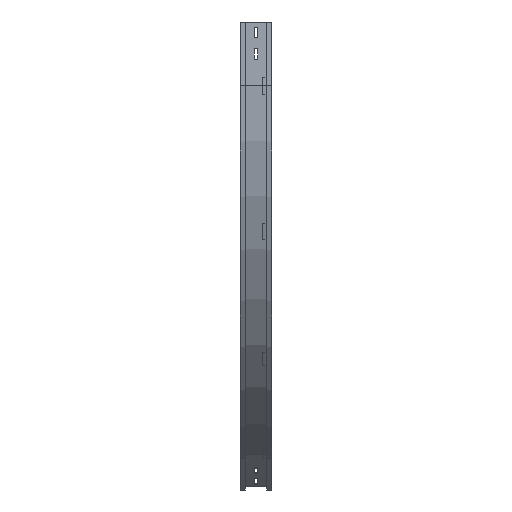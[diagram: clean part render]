
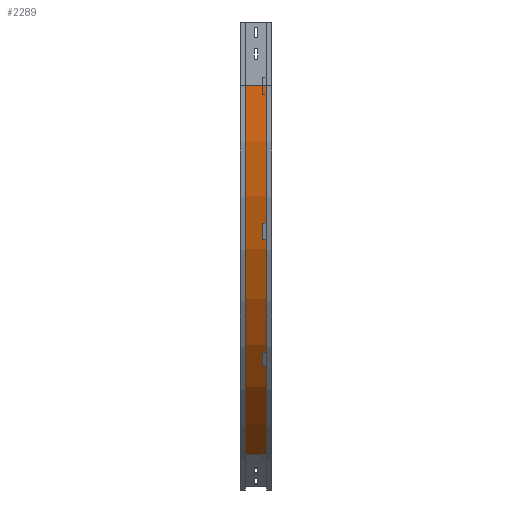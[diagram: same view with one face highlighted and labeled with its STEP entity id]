
A CAD part, left-side view. The second image highlights one B-rep face of the part: STEP entity #2289.
In plain terms, the highlighted cylindrical face has radius 1000 mm (diameter 2000 mm), a partial arc.
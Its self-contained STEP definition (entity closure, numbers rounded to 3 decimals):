
#7 = DIRECTION ( 'NONE',  ( 0., -1., 0. ) ) ;
#40 = VERTEX_POINT ( 'NONE', #1416 ) ;
#66 = CARTESIAN_POINT ( 'NONE',  ( 1009., 12., -150. ) ) ;
#71 = DIRECTION ( 'NONE',  ( 0., -1., 0. ) ) ;
#256 = CIRCLE ( 'NONE', #3017, 1000. ) ;
#290 = AXIS2_PLACEMENT_3D ( 'NONE', #2432, #71, #2468 ) ;
#332 = CYLINDRICAL_SURFACE ( 'NONE', #290, 1000. ) ;
#668 = EDGE_LOOP ( 'NONE', ( #2702, #2552, #2340, #2620 ) ) ;
#795 = CARTESIAN_POINT ( 'NONE',  ( 509., 12., -1016.025 ) ) ;
#1096 = DIRECTION ( 'NONE',  ( -1., 0., 0. ) ) ;
#1138 = VERTEX_POINT ( 'NONE', #2463 ) ;
#1250 = VERTEX_POINT ( 'NONE', #2402 ) ;
#1258 = LINE ( 'NONE', #1604, #2173 ) ;
#1296 = CARTESIAN_POINT ( 'NONE',  ( 1009., 63., -150. ) ) ;
#1299 = EDGE_CURVE ( 'NONE', #1250, #2439, #1687, .T. ) ;
#1366 = VECTOR ( 'NONE', #2505, 1000. ) ;
#1416 = CARTESIAN_POINT ( 'NONE',  ( 9., 12., -150. ) ) ;
#1604 = CARTESIAN_POINT ( 'NONE',  ( 9., 12., -150. ) ) ;
#1620 = LINE ( 'NONE', #795, #1366 ) ;
#1687 = CIRCLE ( 'NONE', #2015, 1000. ) ;
#1723 = DIRECTION ( 'NONE',  ( 0., -1., 0. ) ) ;
#1727 = FACE_OUTER_BOUND ( 'NONE', #668, .T. ) ;
#1915 = DIRECTION ( 'NONE',  ( -1., 0., 0. ) ) ;
#2015 = AXIS2_PLACEMENT_3D ( 'NONE', #1296, #7, #1096 ) ;
#2088 = EDGE_CURVE ( 'NONE', #1250, #40, #1258, .T. ) ;
#2096 = DIRECTION ( 'NONE',  ( 0., -1., 0. ) ) ;
#2173 = VECTOR ( 'NONE', #2096, 1000. ) ;
#2289 = ADVANCED_FACE ( 'NONE', ( #1727 ), #332, .T. ) ;
#2340 = ORIENTED_EDGE ( 'NONE', *, *, #1299, .T. ) ;
#2402 = CARTESIAN_POINT ( 'NONE',  ( 9., 63., -150. ) ) ;
#2432 = CARTESIAN_POINT ( 'NONE',  ( 1009., 0., -150. ) ) ;
#2439 = VERTEX_POINT ( 'NONE', #2590 ) ;
#2463 = CARTESIAN_POINT ( 'NONE',  ( 509., 12., -1016.025 ) ) ;
#2468 = DIRECTION ( 'NONE',  ( 0., 0., -1. ) ) ;
#2505 = DIRECTION ( 'NONE',  ( 0., -1., 0. ) ) ;
#2521 = EDGE_CURVE ( 'NONE', #2439, #1138, #1620, .T. ) ;
#2552 = ORIENTED_EDGE ( 'NONE', *, *, #2088, .F. ) ;
#2590 = CARTESIAN_POINT ( 'NONE',  ( 509., 63., -1016.025 ) ) ;
#2620 = ORIENTED_EDGE ( 'NONE', *, *, #2521, .T. ) ;
#2677 = EDGE_CURVE ( 'NONE', #40, #1138, #256, .T. ) ;
#2702 = ORIENTED_EDGE ( 'NONE', *, *, #2677, .F. ) ;
#3017 = AXIS2_PLACEMENT_3D ( 'NONE', #66, #1723, #1915 ) ;
